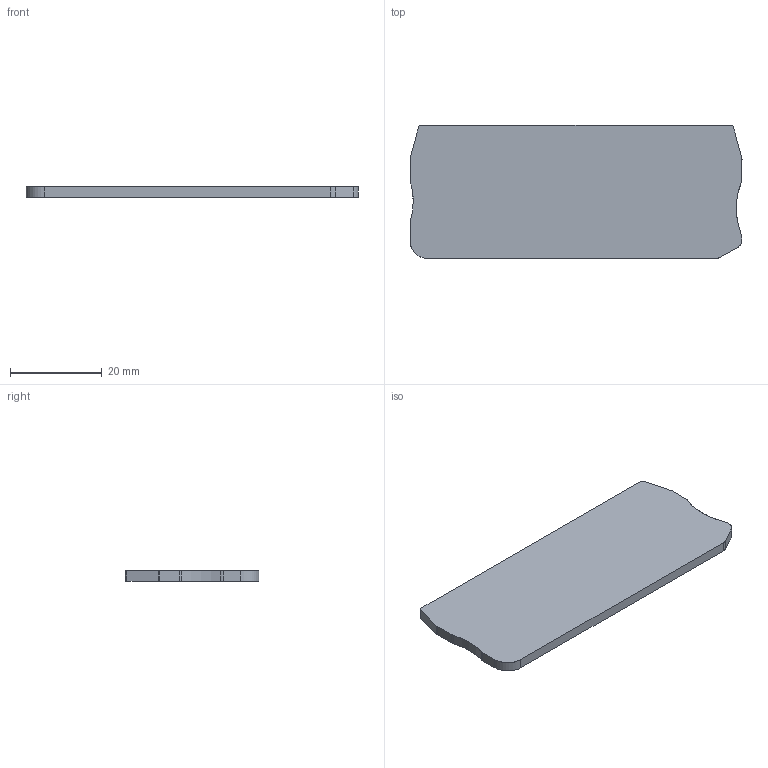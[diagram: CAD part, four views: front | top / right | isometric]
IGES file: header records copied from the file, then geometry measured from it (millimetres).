
Global section: file name: 3030514_d_st25_quattro.igs; native system: OneSpace Designer 3D IGES; preprocessor: 11.50A  18-Jul-2002; date: 20040203.105757; units: millimetre
Bounding box: 72.2 x 29.05 x 2.2 mm (x, y, z)
Surface area: 4547.7 mm2 (no closed solid volume)
Topology: 0 solids, 0 shells, 24 faces, 182 edges, 182 vertices
Faces by surface type: bspline 24
